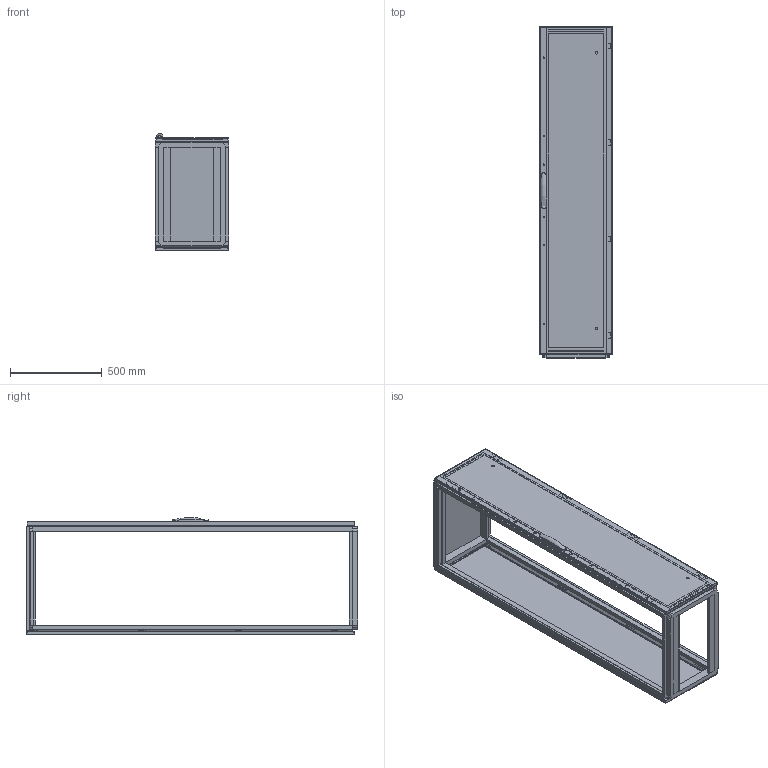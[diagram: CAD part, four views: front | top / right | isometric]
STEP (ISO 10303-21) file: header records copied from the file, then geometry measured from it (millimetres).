
FILE_DESCRIPTION(/* description */ ('STEP AP203'),/* implementation_level */ '2;1');
FILE_NAME(/* name */ 'MCS18046R5(0R)',/* time_stamp */ '2024-02-28T14:40:28+01:00',/* author */ ('License CC BY-ND 4.0'),/* organization */ ('CADENAS'),/* preprocessor_version */ 'ST-DEVELOPER v19.3',/* originating_system */ 'PARTsolutions',/* authorisation */ ' ');
FILE_SCHEMA (('CONFIG_CONTROL_DESIGN'));
Length unit declared in the file: millimetre
Products named in the file (11): MCS18046R5(0R); MCS18046R5_Frame; CRPK04(0)_Rear Panel Mounting Kit; CRP1804R5(0)_Rear Panel; DNMK01(0)_Rod catches; DNMK01(0)_Hinge; DN1804R5(0)_Plain door; LSSDXXXX(0)_Lock; LSSD1800(0)_Espagnolette Top; LSSD1800(0)_Espagnolette Bottom; CCR046R5(0)_Roof plate
Assembly tree (23 placements, depth 2):
  MCS18046R5(0R)
    MCS18046R5_Frame
    CRPK04(0)_Rear Panel Mounting Kit  x8
    CRP1804R5(0)_Rear Panel
    DNMK01(0)_Rod catches  x4
    DNMK01(0)_Hinge  x4
    DN1804R5(0)_Plain door
    LSSDXXXX(0)_Lock
    LSSD1800(0)_Espagnolette Top
    LSSD1800(0)_Espagnolette Bottom
    CCR046R5(0)_Roof plate
Bounding box: 399 x 1806 x 634.86 mm (x, y, z)
Volume: 17362629.9 mm3; surface area: 6016295.4 mm2
Topology: 23 solids, 23 shells, 1027 faces, 2681 edges, 1759 vertices
Faces by surface type: plane 852, cylinder 116, cone 58, torus 1
Full cylindrical faces by diameter (mm): 5 x20, 5.2 x2, 6 x6, 7 x6, 7.4 x4, 8 x16, 9 x2, 10 x12, 14 x4
Entity records: 21495 total; most frequent: CARTESIAN_POINT 3829, ORIENTED_EDGE 3530, DIRECTION 3450, EDGE_CURVE 1765, LINE 1498, VECTOR 1498, VERTEX_POINT 1205, AXIS2_PLACEMENT_3D 976
